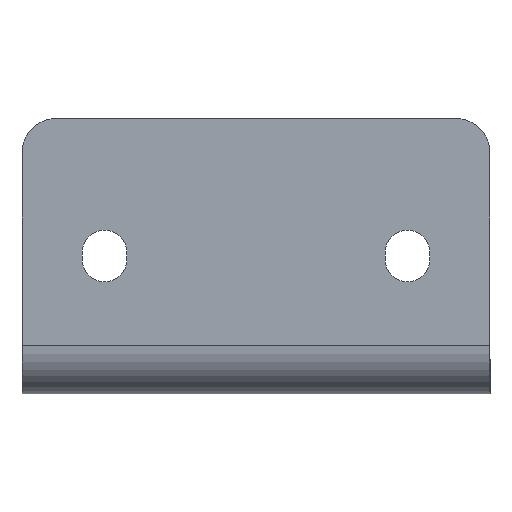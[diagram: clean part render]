
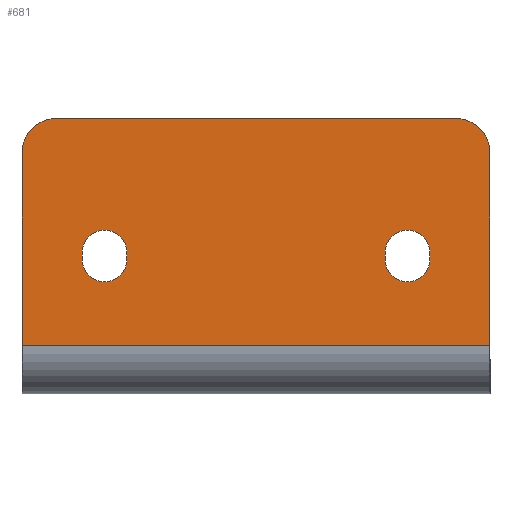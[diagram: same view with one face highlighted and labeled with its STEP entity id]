
A CAD part, front view. The second image highlights one B-rep face of the part: STEP entity #681.
In plain terms, the highlighted planar face has unit normal (0, -1, 0).
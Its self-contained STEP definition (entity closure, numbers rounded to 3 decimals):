
#196=CARTESIAN_POINT('',(1.464,0.,38.536));
#197=VERTEX_POINT('',#196);
#206=CARTESIAN_POINT('',(5.0,0.,40.0));
#207=VERTEX_POINT('',#206);
#208=CARTESIAN_POINT('',(5.0,0.,35.0));
#209=DIRECTION('',(0.0,1.,0.0));
#210=DIRECTION('',(-0.707,0.0,0.707));
#211=AXIS2_PLACEMENT_3D('',#208,#209,#210);
#212=CIRCLE('',#211,5.);
#213=EDGE_CURVE('',#197,#207,#212,.T.);
#238=CARTESIAN_POINT('',(66.536,0.,38.536));
#239=VERTEX_POINT('',#238);
#248=CARTESIAN_POINT('',(68.0,0.,35.0));
#249=VERTEX_POINT('',#248);
#250=CARTESIAN_POINT('',(63.,0.,35.0));
#251=DIRECTION('',(0.0,1.,0.0));
#252=DIRECTION('',(0.707,0.0,0.707));
#253=AXIS2_PLACEMENT_3D('',#250,#251,#252);
#254=CIRCLE('',#253,5.);
#255=EDGE_CURVE('',#239,#249,#254,.T.);
#280=CARTESIAN_POINT('',(15.25,0.,19.5));
#281=VERTEX_POINT('',#280);
#282=CARTESIAN_POINT('',(8.75,0.,19.5));
#283=VERTEX_POINT('',#282);
#284=CARTESIAN_POINT('',(12.,0.,19.5));
#285=DIRECTION('',(0.0,1.0,0.0));
#286=DIRECTION('',(-1.0,0.0,0.0));
#287=AXIS2_PLACEMENT_3D('',#284,#285,#286);
#288=CIRCLE('',#287,3.25);
#289=EDGE_CURVE('',#281,#283,#288,.T.);
#322=CARTESIAN_POINT('',(8.75,0.,20.5));
#323=VERTEX_POINT('',#322);
#324=CARTESIAN_POINT('',(8.75,0.,19.5));
#325=DIRECTION('',(0.0,0.0,1.0));
#326=VECTOR('',#325,1.);
#327=LINE('',#324,#326);
#328=EDGE_CURVE('',#283,#323,#327,.T.);
#353=CARTESIAN_POINT('',(15.25,0.,20.5));
#354=VERTEX_POINT('',#353);
#355=CARTESIAN_POINT('',(12.,0.,20.5));
#356=DIRECTION('',(0.0,1.0,0.0));
#357=DIRECTION('',(1.0,0.0,0.0));
#358=AXIS2_PLACEMENT_3D('',#355,#356,#357);
#359=CIRCLE('',#358,3.25);
#360=EDGE_CURVE('',#323,#354,#359,.T.);
#386=CARTESIAN_POINT('',(15.25,0.,20.5));
#387=DIRECTION('',(0.0,0.0,-1.0));
#388=VECTOR('',#387,1.);
#389=LINE('',#386,#388);
#390=EDGE_CURVE('',#354,#281,#389,.T.);
#408=CARTESIAN_POINT('',(59.25,0.,19.5));
#409=VERTEX_POINT('',#408);
#410=CARTESIAN_POINT('',(52.75,0.,19.5));
#411=VERTEX_POINT('',#410);
#412=CARTESIAN_POINT('',(56.,0.,19.5));
#413=DIRECTION('',(0.0,1.0,0.0));
#414=DIRECTION('',(-1.0,0.0,0.0));
#415=AXIS2_PLACEMENT_3D('',#412,#413,#414);
#416=CIRCLE('',#415,3.25);
#417=EDGE_CURVE('',#409,#411,#416,.T.);
#450=CARTESIAN_POINT('',(52.75,0.,20.5));
#451=VERTEX_POINT('',#450);
#452=CARTESIAN_POINT('',(52.75,0.,19.5));
#453=DIRECTION('',(0.0,0.0,1.0));
#454=VECTOR('',#453,1.);
#455=LINE('',#452,#454);
#456=EDGE_CURVE('',#411,#451,#455,.T.);
#481=CARTESIAN_POINT('',(59.25,0.,20.5));
#482=VERTEX_POINT('',#481);
#483=CARTESIAN_POINT('',(56.,0.,20.5));
#484=DIRECTION('',(0.0,1.0,0.0));
#485=DIRECTION('',(1.0,0.0,0.0));
#486=AXIS2_PLACEMENT_3D('',#483,#484,#485);
#487=CIRCLE('',#486,3.25);
#488=EDGE_CURVE('',#451,#482,#487,.T.);
#514=CARTESIAN_POINT('',(59.25,0.,20.5));
#515=DIRECTION('',(0.0,0.0,-1.0));
#516=VECTOR('',#515,1.);
#517=LINE('',#514,#516);
#518=EDGE_CURVE('',#482,#409,#517,.T.);
#546=CARTESIAN_POINT('',(63.,0.,40.0));
#547=VERTEX_POINT('',#546);
#554=CARTESIAN_POINT('',(63.,0.,35.0));
#555=DIRECTION('',(0.0,1.,0.0));
#556=DIRECTION('',(0.707,0.0,0.707));
#557=AXIS2_PLACEMENT_3D('',#554,#555,#556);
#558=CIRCLE('',#557,5.);
#559=EDGE_CURVE('',#547,#239,#558,.T.);
#570=CARTESIAN_POINT('',(68.0,0.0,7.0));
#571=VERTEX_POINT('',#570);
#572=CARTESIAN_POINT('',(68.0,0.,35.0));
#573=DIRECTION('',(0.0,0.0,-1.0));
#574=VECTOR('',#573,28.0);
#575=LINE('',#572,#574);
#576=EDGE_CURVE('',#249,#571,#575,.T.);
#629=CARTESIAN_POINT('',(34.,0.,22.5));
#630=DIRECTION('',(0.0,1.0,0.0));
#631=DIRECTION('',(0.0,0.0,1.0));
#632=AXIS2_PLACEMENT_3D('',#629,#630,#631);
#633=PLANE('',#632);
#634=ORIENTED_EDGE('',*,*,#559,.F.);
#635=CARTESIAN_POINT('',(5.0,0.,40.0));
#636=DIRECTION('',(1.0,0.0,0.0));
#637=VECTOR('',#636,58.);
#638=LINE('',#635,#637);
#639=EDGE_CURVE('',#207,#547,#638,.T.);
#640=ORIENTED_EDGE('',*,*,#639,.F.);
#641=ORIENTED_EDGE('',*,*,#213,.F.);
#642=CARTESIAN_POINT('',(0.,0.,35.0));
#643=VERTEX_POINT('',#642);
#644=CARTESIAN_POINT('',(5.0,0.,35.0));
#645=DIRECTION('',(0.0,1.,0.0));
#646=DIRECTION('',(-0.707,0.0,0.707));
#647=AXIS2_PLACEMENT_3D('',#644,#645,#646);
#648=CIRCLE('',#647,5.);
#649=EDGE_CURVE('',#643,#197,#648,.T.);
#650=ORIENTED_EDGE('',*,*,#649,.F.);
#651=CARTESIAN_POINT('',(0.,0.,7.0));
#652=VERTEX_POINT('',#651);
#653=CARTESIAN_POINT('',(0.,0.,7.0));
#654=DIRECTION('',(0.0,0.0,1.0));
#655=VECTOR('',#654,28.0);
#656=LINE('',#653,#655);
#657=EDGE_CURVE('',#652,#643,#656,.T.);
#658=ORIENTED_EDGE('',*,*,#657,.F.);
#659=CARTESIAN_POINT('',(0.,0.,7.0));
#660=DIRECTION('',(1.0,0.0,0.0));
#661=VECTOR('',#660,68.0);
#662=LINE('',#659,#661);
#663=EDGE_CURVE('',#652,#571,#662,.T.);
#664=ORIENTED_EDGE('',*,*,#663,.T.);
#665=ORIENTED_EDGE('',*,*,#576,.F.);
#666=ORIENTED_EDGE('',*,*,#255,.F.);
#667=EDGE_LOOP('',(#634,#640,#641,#650,#658,#664,#665,#666));
#668=FACE_OUTER_BOUND('',#667,.T.);
#669=ORIENTED_EDGE('',*,*,#360,.T.);
#670=ORIENTED_EDGE('',*,*,#390,.T.);
#671=ORIENTED_EDGE('',*,*,#289,.T.);
#672=ORIENTED_EDGE('',*,*,#328,.T.);
#673=EDGE_LOOP('',(#669,#670,#671,#672));
#674=FACE_BOUND('',#673,.T.);
#675=ORIENTED_EDGE('',*,*,#488,.T.);
#676=ORIENTED_EDGE('',*,*,#518,.T.);
#677=ORIENTED_EDGE('',*,*,#417,.T.);
#678=ORIENTED_EDGE('',*,*,#456,.T.);
#679=EDGE_LOOP('',(#675,#676,#677,#678));
#680=FACE_BOUND('',#679,.T.);
#681=ADVANCED_FACE('',(#668,#674,#680),#633,.F.);
